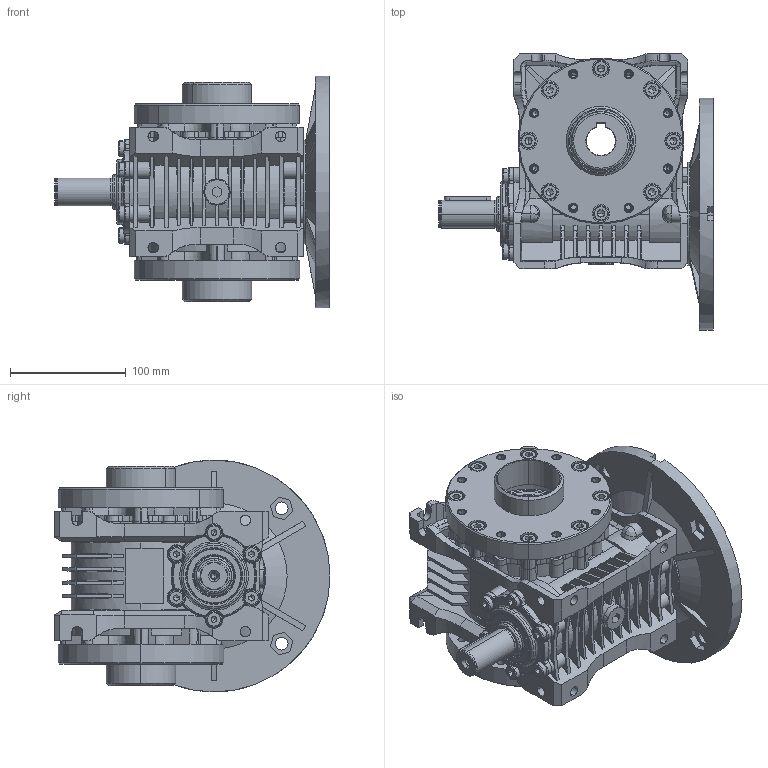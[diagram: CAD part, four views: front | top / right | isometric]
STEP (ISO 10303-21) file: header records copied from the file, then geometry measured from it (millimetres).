
FILE_DESCRIPTION (( 'STEP AP203' ), '1' );
FILE_NAME ('MRP-63_200-19-WBS-SO_1-3D.STEP', '2024-10-28T13:53:47', ( '' ), ( '' ), 'SwSTEP 2.0', 'SolidWorks 2022', '' );
FILE_SCHEMA (( 'CONFIG_CONTROL_DESIGN' ));
Length unit declared in the file: millimetre
Products named in the file (1): MRP-63_200-19-WBS-SO_1-3D
Bounding box: 237 x 238 x 200 mm (x, y, z)
Volume: 2696249 mm3; surface area: 468484.5 mm2
Topology: 1 solids, 82 shells, 3708 faces, 9199 edges, 5711 vertices
Faces by surface type: plane 1397, cone 926, cylinder 751, torus 350, bspline 246, sphere 38
Entity records: 117569 total; most frequent: CARTESIAN_POINT 31370, ORIENTED_EDGE 18166, DIRECTION 18107, EDGE_CURVE 9083, AXIS2_PLACEMENT_3D 7002, VERTEX_POINT 5711, VECTOR 4103, LINE 4103
